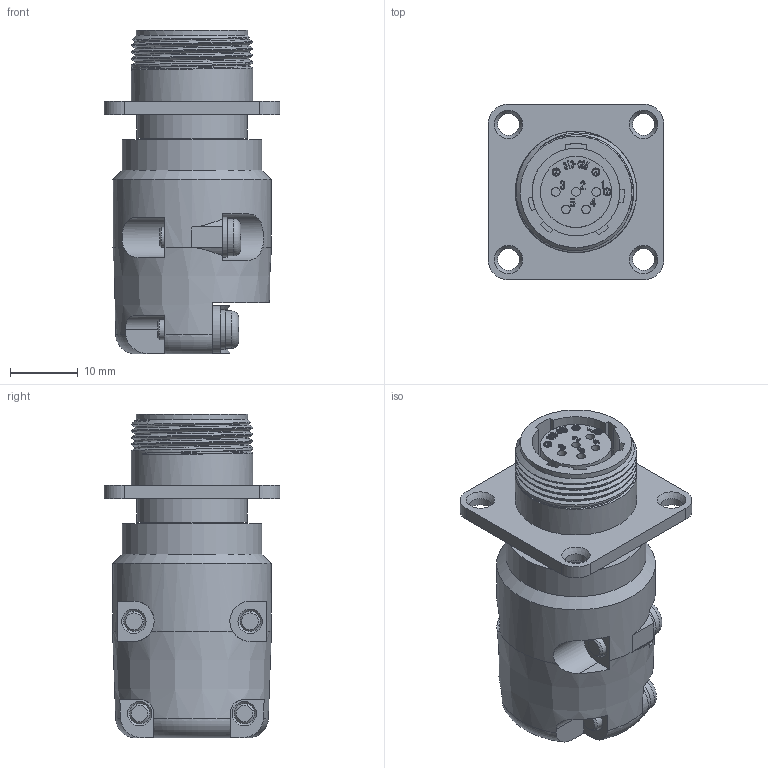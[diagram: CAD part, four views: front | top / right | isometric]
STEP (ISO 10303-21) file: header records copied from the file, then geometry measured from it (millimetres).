
FILE_DESCRIPTION (( 'STEP AP203' ), '1' );
FILE_NAME ('JMWR1305FM-D.STEP', '2021-07-15T11:41:56', ( '' ), ( '' ), 'SwSTEP 2.0', 'SolidWorks 2018', '' );
FILE_SCHEMA (( 'CONFIG_CONTROL_DESIGN' ));
Length unit declared in the file: millimetre
Products named in the file (1): JMWR1305FM-D
Bounding box: 26 x 26 x 47.9 mm (x, y, z)
Volume: 11185.7 mm3; surface area: 8852 mm2
Topology: 1 solids, 1 shells, 825 faces, 2238 edges, 1470 vertices
Faces by surface type: plane 399, bspline 238, cylinder 139, cone 29, torus 20
Full cylindrical faces by diameter (mm): 0.9 x3, 1.1 x5, 1.2 x3, 1.3 x5, 1.55 x5, 3 x4, 3.2 x4, 5.5 x4, 10.3 x1, 10.5 x1, 12 x1, 13 x1, 14.7 x1, 14.8 x1, 16.3 x1, 16.5 x1, 17.96 x4, 20.7 x1, 23.5 x1
Entity records: 36201 total; most frequent: CARTESIAN_POINT 17551, ORIENTED_EDGE 4256, DIRECTION 3015, EDGE_CURVE 2128, VERTEX_POINT 1433, VECTOR 1133, LINE 1133, EDGE_LOOP 953
